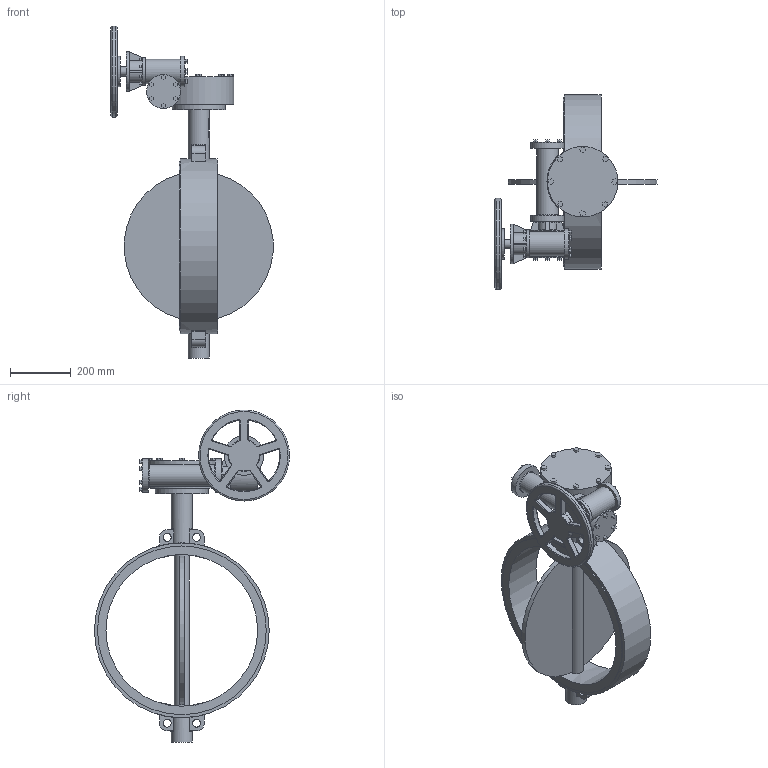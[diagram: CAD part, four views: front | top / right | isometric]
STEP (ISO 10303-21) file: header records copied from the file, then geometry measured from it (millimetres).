
FILE_DESCRIPTION(('STEP AP203'), '1');
FILE_NAME('青蜮铕 017W.YS_DN500_PN10_疱潴牝铕', '', ('UNSPECIFIED'), ('UNSPECIFIED'), 'ASCON STEP Converter 1.6', 'ASCON Math Kernel', '');
FILE_SCHEMA(('CONFIG_CONTROL_DESIGN'));
Length unit declared in the file: millimetre
Bounding box: 533.9 x 643 x 1094 mm (x, y, z)
Volume: 20985669.1 mm3; surface area: 1557560 mm2
Topology: 1 solids, 1 shells, 622 faces, 1537 edges, 976 vertices
Faces by surface type: plane 429, cylinder 107, torus 76, cone 8, bspline 2
Full cylindrical faces by diameter (mm): 15.294 x4, 18 x4, 26 x4, 30 x1, 50 x1, 70 x2, 71 x1, 80 x1, 92 x1, 100 x2, 111 x3, 130 x1, 175 x1, 232 x1, 300 x1, 500 x1, 556 x2, 576 x1
Entity records: 25579 total; most frequent: CARTESIAN_POINT 5757, DIRECTION 3082, ORIENTED_EDGE 2972, EDGE_CURVE 1486, LINE 1048, VECTOR 1048, AXIS2_PLACEMENT_3D 1017, VERTEX_POINT 972
